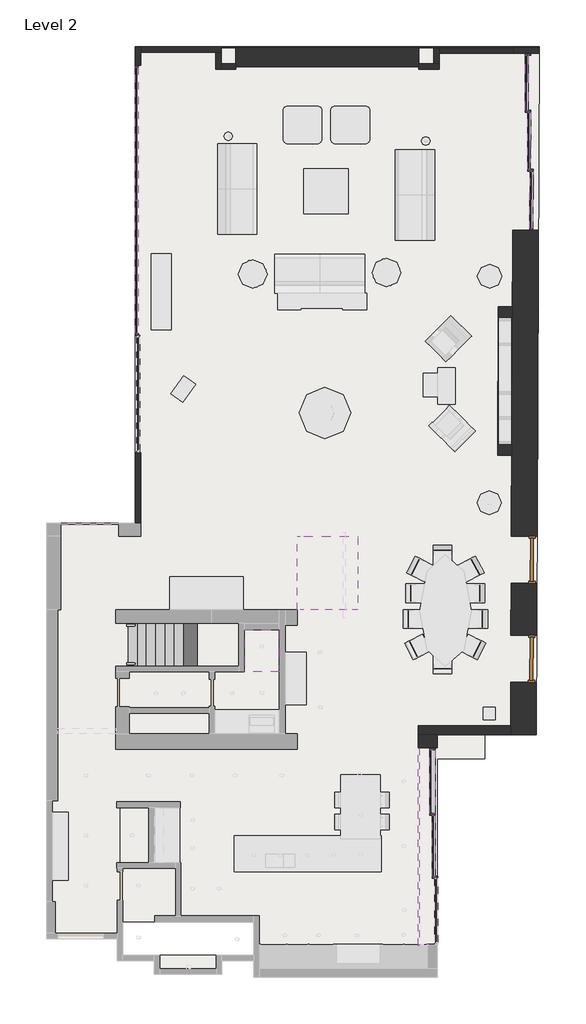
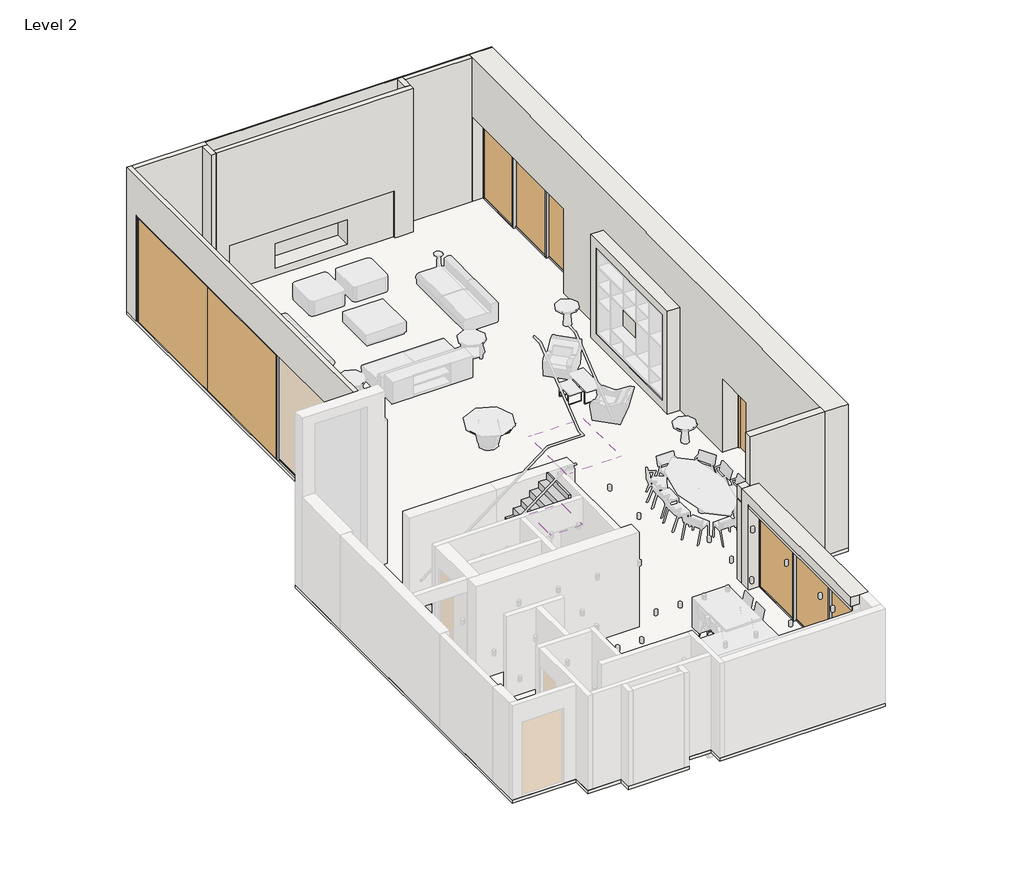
# One storey, part 2 of 3: 23 members, 13 walls, 10 doors, 3 slabs, 2 coverings, 1 stair flight.
"""IFC4 building model written with IfcOpenShell, lengths in millimetres."""

from ifc_helpers import new_model, si_unit, frame, origin, place, context, project, spatial, polyline, circle_curve, outline, extrude, faceted_brep, transform, mapped, element, save
from ifc_brep_helpers import plane_surface, revolved_surface, advanced_brep
from components import door_02_type_5_3aaab429, door_curtain_02_door_curtain_02_88b0817b, door_curtain_02_door_curtain_02_e1191033, door_curtain_02_door_curtain_02_69103538, door_curtain_02_door_curtain_02_17623e84, door_curtain_02_door_curtain_02_5de22d37, door_curtain_02_door_curtain_02_c00c4c88, rectangular_mullion_50_x_150mm_af865c33, rectangular_mullion_50_x_150mm_c631fdb4, rectangular_mullion_50_x_150mm_22fa7329, rectangular_mullion_50_x_80mm_b02faac2, rectangular_mullion_50_x_80mm_7a5850f5, rectangular_mullion_50_x_80mm_a170ba5c, rectangular_mullion_50_x_80mm_e6c40bfc, rectangular_mullion_50_x_80mm_b125b9fd, rectangular_mullion_50_x_80mm_d9664e05, rectangular_mullion_50_x_80mm_e20e2da3, rectangular_mullion_50_x_80mm_78f80b50

model = new_model("IFC4")

# Units and contexts
model_context = context("Model", 3, world=origin())
ifc_project = project(units=[si_unit("LENGTHUNIT", "METRE", prefix="MILLI")], contexts=[model_context])

# Site, building, storey
site = spatial("IfcSite", under=ifc_project)
building = spatial("IfcBuilding", under=site)
storey = spatial("IfcBuildingStorey", under=building, Name="Level 2", Elevation=3400.0)

# Coverings
placement = place(None, origin())
element("IfcCovering", 1, ObjectType="Ceiling", at=placement, inside=storey, context=model_context, shape_type="AdvancedBrep", body=[
    advanced_brep(
    [(-1542.6989418, 6908.2374199, 5587.4058339), (-1542.6989418, 7058.2374199, 5587.4058339), (-1542.6989418, 8048.2374199, 5587.4058339), (-2497.6989418, 8048.2374199, 5587.4058339), (-2497.6989418, 7058.2374199, 5587.4058339), (-2497.6989418, 6908.2374199, 5587.4058339), (-2070.5689108, 7586.6721928, 5587.4058339), (-1970.5689108, 7586.6721928, 5587.4058339), (-1542.6989418, 6908.2374199, 5537.4058339), (-2497.6989418, 6908.2374199, 5537.4058339), (-2497.6989418, 7058.2374199, 5537.4058339), (-2497.6989418, 8048.2374199, 5537.4058339), (-1542.6989418, 8048.2374199, 5537.4058339), (-2070.5689108, 7586.6721928, 5537.4058339), (-1970.5689108, 7586.6721928, 5537.4058339)],
    [
        (0, 1),
        (1, 2),
        (2, 3),
        (3, 4),
        (4, 5),
        (5, 0),
        (6, 7, circle_curve(frame((-2020.5689108, 7586.6721928, 5587.4058339), z_axis=(0.0, 0.0, -1.0), x_axis=(1.0, 0.0, 0.0)), 50.0)),
        (7, 6, circle_curve(frame((-2020.5689108, 7586.6721928, 5587.4058339), z_axis=(0.0, 0.0, -1.0), x_axis=(1.0, 0.0, 0.0)), 50.0)),
        (8, 9),
        (9, 10),
        (10, 11),
        (11, 12),
        (12, 8),
        (13, 14, circle_curve(frame((-2020.5689108, 7586.6721928, 5537.4058339), z_axis=(0.0, 0.0, 1.0), x_axis=(1.0, 0.0, 0.0)), 50.0)),
        (14, 13, circle_curve(frame((-2020.5689108, 7586.6721928, 5537.4058339), z_axis=(0.0, 0.0, 1.0), x_axis=(1.0, 0.0, 0.0)), 50.0)),
        (0, 8),
        (12, 2),
        (11, 3),
        (9, 5),
        (13, 6),
        (7, 14),
    ],
    [
        plane_surface(frame((-1542.6989418, 6908.2374199, 5587.4058339), z_axis=(0.0, 0.0, 1.0), x_axis=(0.0, 1.0, 0.0))),
        plane_surface(frame((-1542.6989418, 6908.2374199, 5537.4058339), z_axis=(0.0, 0.0, -1.0), x_axis=(0.0, -1.0, 0.0))),
        plane_surface(frame((-1542.6989418, 6908.2374199, 5587.4058339), z_axis=(1.0, 0.0, 0.0), x_axis=(0.0, 0.0, -1.0))),
        plane_surface(frame((-1542.6989418, 8048.2374199, 5587.4058339), z_axis=(0.0, 1.0, 0.0), x_axis=(0.0, 0.0, -1.0))),
        plane_surface(frame((-2497.6989418, 8048.2374199, 5587.4058339), z_axis=(-1.0, 0.0, 0.0), x_axis=(0.0, 0.0, -1.0))),
        plane_surface(frame((-2497.6989418, 6908.2374199, 5587.4058339), z_axis=(0.0, -1.0, 0.0), x_axis=(0.0, 0.0, -1.0))),
        revolved_surface(polyline([(-1970.5689108, 7586.6721928, 5587.4058339), (-1970.5689108, 7586.6721928, 5537.4058339)]), (-2020.5689108, 7586.6721928, 5537.4058339), (0.0, 0.0, 1.0)),
    ],
    [
        (0, [[1, 2, 3, 4, 5, 6], [7, 8]]),
        (1, [[9, 10, 11, 12, 13], [14, 15]]),
        (2, [[-2, -1, 16, -13, 17]]),
        (3, [[-3, -17, -12, 18]]),
        (4, [[-5, -4, -18, -11, -10, 19]]),
        (5, [[-6, -19, -9, -16]]),
        (6, [[-14, 20, -8, 21]]),
        (6, [[-15, -21, -7, -20]]),
    ],
),
])
element("IfcCovering", 2, ObjectType="Ceiling", at=placement, inside=storey, context=model_context, shape_type="Brep", body=[
    faceted_brep([(586.4168364, 8588.2374199, 6014.7543037), (586.4168364, 10551.9409292, 7360.3372287), (586.4168364, 10588.8264883, 7385.6122146), (-877.6989418, 10588.8264883, 7385.6122146), (-877.6989418, 10573.3393395, 7375.0), (-1057.6989418, 10573.3393395, 7375.0), (-1057.6989418, 8588.2374199, 6014.7543037), (-877.6989418, 8588.2374199, 6014.7543037), (286.4168364, 8588.2374199, 6014.7543037), (586.4168364, 10588.8264883, 7325.0), (586.4168364, 8588.2374199, 5954.1420891), (-1057.6989418, 8588.2374199, 5954.1420891), (-1057.6989418, 10588.8264883, 7325.0), (586.4168364, 8588.2374199, 6000.0), (-1057.6989418, 10588.8264883, 7375.0), (-877.6989418, 10588.8264883, 7375.0)], [[[0, 1, 2, 3, 4, 5, 6, 7, 8]], [[9, 10, 11, 12]], [[2, 1, 0, 13, 10, 9]], [[9, 12, 14, 15, 3, 2]], [[11, 10, 13, 0, 8, 7, 6]], [[15, 4, 3]], [[4, 15, 14, 5]], [[12, 11, 6, 5, 14]]]),
])

# Doors
door_02_type_5_shape = door_02_type_5_3aaab429(model_context)
element("IfcDoor", 3, ObjectType="Door_02 : Type 5", at=placement, inside=storey, context=model_context, shape_type="MappedRepresentation", body=[
    mapped(door_02_type_5_shape, transform((5123.3886777, 9953.1228293, 3400.0), x_axis=(-0.004356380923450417, -0.9999905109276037, 0.0), y_axis=(0.9999905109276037, -0.004356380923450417, 0.0), z_axis=(0.0, 0.0, 1.0))),
])
element("IfcDoor", 4, ObjectType="Door_02 : Type 5", at=placement, inside=storey, context=model_context, shape_type="MappedRepresentation", body=[
    mapped(door_02_type_5_shape, transform((5111.6482311, 7258.1484023, 3400.0), x_axis=(-0.004356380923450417, -0.9999905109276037, 0.0), y_axis=(0.9999905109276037, -0.004356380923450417, 0.0), z_axis=(0.0, 0.0, 1.0))),
])
door_curtain_02_door_curtain_02_shape = door_curtain_02_door_curtain_02_88b0817b(model_context)
element("IfcDoor", 5, ObjectType="Door_Curtain_02 : Door_Curtain_02", at=placement, inside=storey, context=model_context, shape_type="MappedRepresentation", body=[
    mapped(door_curtain_02_door_curtain_02_shape, transform((2578.0901674, 3913.2967998, 3450.0), x_axis=(0.0, -1.0, 0.0), y_axis=(1.0, 0.0, 0.0), z_axis=(0.0, 0.0, 1.0))),
])
door_curtain_02_door_curtain_02_2_shape = door_curtain_02_door_curtain_02_e1191033(model_context)
element("IfcDoor", 6, ObjectType="Door_Curtain_02 : Door_Curtain_02", at=placement, inside=storey, context=model_context, shape_type="MappedRepresentation", body=[
    mapped(door_curtain_02_door_curtain_02_2_shape, transform((2648.0901674, 2163.2967998, 3450.0), x_axis=(0.0, -1.0, 0.0), y_axis=(1.0, 0.0, 0.0), z_axis=(0.0, 0.0, 1.0))),
])
door_curtain_02_door_curtain_02_3_shape = door_curtain_02_door_curtain_02_69103538(model_context)
element("IfcDoor", 7, ObjectType="Door_Curtain_02 : Door_Curtain_02", at=placement, inside=storey, context=model_context, shape_type="MappedRepresentation", body=[
    mapped(door_curtain_02_door_curtain_02_3_shape, transform((2718.0901674, 403.2967998, 3450.0), x_axis=(0.0, -1.0, 0.0), y_axis=(1.0, 0.0, 0.0), z_axis=(0.0, 0.0, 1.0))),
])
door_curtain_02_door_curtain_02_4_shape = door_curtain_02_door_curtain_02_17623e84(model_context)
element("IfcDoor", 8, ObjectType="Door_Curtain_02 : Door_Curtain_02", at=placement, inside=storey, context=model_context, shape_type="MappedRepresentation", body=[
    mapped(door_curtain_02_door_curtain_02_4_shape, transform((5243.0652869, 21356.3197035, 3450.0), x_axis=(-0.004356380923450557, -0.9999905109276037, 0.0), y_axis=(0.9999905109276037, -0.004356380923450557, 0.0), z_axis=(0.0, 0.0, 1.0))),
])
element("IfcDoor", 9, ObjectType="Door_Curtain_02 : Door_Curtain_02", at=placement, inside=storey, context=model_context, shape_type="MappedRepresentation", body=[
    mapped(door_curtain_02_door_curtain_02_4_shape, transform((5306.0727663, 19751.0609777, 3450.0), x_axis=(-0.004356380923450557, -0.9999905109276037, 0.0), y_axis=(0.9999905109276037, -0.004356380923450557, 0.0), z_axis=(0.0, 0.0, 1.0))),
])
door_curtain_02_door_curtain_02_5_shape = door_curtain_02_door_curtain_02_5de22d37(model_context)
element("IfcDoor", 10, ObjectType="Door_Curtain_02 : Door_Curtain_02", at=placement, inside=storey, context=model_context, shape_type="MappedRepresentation", body=[
    mapped(door_curtain_02_door_curtain_02_5_shape, transform((5179.9490299, 22936.3344592, 3450.0), x_axis=(-0.004356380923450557, -0.9999905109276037, 0.0), y_axis=(0.9999905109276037, -0.004356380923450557, 0.0), z_axis=(0.0, 0.0, 1.0))),
])
door_curtain_02_door_curtain_02_6_shape = door_curtain_02_door_curtain_02_c00c4c88(model_context)
element("IfcDoor", 11, ObjectType="Door_Curtain_02 : Door_Curtain_02", at=placement, inside=storey, context=model_context, shape_type="MappedRepresentation", body=[
    mapped(door_curtain_02_door_curtain_02_6_shape, transform((-5434.2035042, 21548.8264883, 3400.0), x_axis=(0.0, -1.0, 0.0), y_axis=(1.0, 0.0, 0.0), z_axis=(0.0, 0.0, 1.0))),
])
element("IfcDoor", 12, ObjectType="Door_Curtain_02 : Door_Curtain_02", at=placement, inside=storey, context=model_context, shape_type="MappedRepresentation", body=[
    mapped(door_curtain_02_door_curtain_02_6_shape, transform((-5434.2035042, 17928.8264883, 3400.0), x_axis=(0.0, -1.0, 0.0), y_axis=(1.0, 0.0, 0.0), z_axis=(0.0, 0.0, 1.0))),
])

# Members
rectangular_mullion_50_x_150mm_shape = rectangular_mullion_50_x_150mm_af865c33(model_context)
element("IfcMember", 13, ObjectType="Rectangular Mullion : 50 x 150mm", at=placement, inside=storey, context=model_context, shape_type="MappedRepresentation", body=[
    mapped(rectangular_mullion_50_x_150mm_shape, transform((2578.0901674, 2998.2967998, 3400.0), x_axis=(0.0, -1.0, 0.0), y_axis=(-1.0, 0.0, 0.0), z_axis=(0.0, 0.0, -1.0))),
])
element("IfcMember", 14, ObjectType="Rectangular Mullion : 50 x 150mm", at=placement, inside=storey, context=model_context, shape_type="MappedRepresentation", body=[
    mapped(rectangular_mullion_50_x_150mm_shape, transform((2648.0901674, 1278.2967998, 3400.0), x_axis=(0.0, -1.0, 0.0), y_axis=(-1.0, 0.0, 0.0), z_axis=(0.0, 0.0, -1.0))),
])
element("IfcMember", 15, ObjectType="Rectangular Mullion : 50 x 150mm", at=placement, inside=storey, context=model_context, shape_type="MappedRepresentation", body=[
    mapped(rectangular_mullion_50_x_150mm_shape, transform((2578.0901674, 4828.2967998, 6115.0), x_axis=(0.0, 1.0, 0.0), y_axis=(-1.0, 0.0, 0.0), z_axis=(0.0, 0.0, 1.0))),
])
rectangular_mullion_50_x_150mm_2_shape = rectangular_mullion_50_x_150mm_c631fdb4(model_context)
element("IfcMember", 16, ObjectType="Rectangular Mullion : 50 x 150mm", at=placement, inside=storey, context=model_context, shape_type="MappedRepresentation", body=[
    mapped(rectangular_mullion_50_x_150mm_2_shape, transform((5176.4530357, 22133.84243, 3400.0), x_axis=(-0.004356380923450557, -0.9999905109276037, 0.0), y_axis=(-0.9999905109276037, 0.004356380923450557, 0.0), z_axis=(0.0, 0.0, -1.0))),
])
element("IfcMember", 17, ObjectType="Rectangular Mullion : 50 x 150mm", at=placement, inside=storey, context=model_context, shape_type="MappedRepresentation", body=[
    mapped(rectangular_mullion_50_x_150mm_2_shape, transform((5239.4603832, 20528.8279116, 3400.0), x_axis=(-0.004356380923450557, -0.9999905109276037, 0.0), y_axis=(-0.9999905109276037, 0.004356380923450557, 0.0), z_axis=(0.0, 0.0, -1.0))),
])
rectangular_mullion_50_x_150mm_3_shape = rectangular_mullion_50_x_150mm_22fa7329(model_context)
element("IfcMember", 18, ObjectType="Rectangular Mullion : 50 x 150mm", at=placement, inside=storey, context=model_context, shape_type="MappedRepresentation", body=[
    mapped(rectangular_mullion_50_x_150mm_3_shape, transform((2578.0901674, 3048.2967998, 6115.0), x_axis=(0.0, 0.0, 1.0), y_axis=(-1.0, 0.0, 0.0), z_axis=(0.0, -1.0, 0.0))),
])
element("IfcMember", 19, ObjectType="Rectangular Mullion : 50 x 150mm", at=placement, inside=storey, context=model_context, shape_type="MappedRepresentation", body=[
    mapped(rectangular_mullion_50_x_150mm_3_shape, transform((2578.0901674, 4778.2967998, 3400.0), x_axis=(0.0, 0.0, -1.0), y_axis=(-1.0, 0.0, 0.0), z_axis=(0.0, 1.0, 0.0))),
])
element("IfcMember", 20, ObjectType="Rectangular Mullion : 50 x 150mm", at=placement, inside=storey, context=model_context, shape_type="MappedRepresentation", body=[
    mapped(rectangular_mullion_50_x_150mm_2_shape, transform((5183.445024, 23738.8264883, 6100.8896883), x_axis=(0.004356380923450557, 0.9999905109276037, 0.0), y_axis=(-0.9999905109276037, 0.004356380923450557, 0.0), z_axis=(0.0, 0.0, 1.0))),
])
rectangular_mullion_50_x_80mm_shape = rectangular_mullion_50_x_80mm_b02faac2(model_context)
element("IfcMember", 21, ObjectType="Rectangular Mullion : 50 x 80mm", at=placement, inside=storey, context=model_context, shape_type="MappedRepresentation", body=[
    mapped(rectangular_mullion_50_x_80mm_shape, transform((2648.0901674, 2998.2967998, 3400.0), x_axis=(0.0, 0.0, -1.0), y_axis=(-1.0, 0.0, 0.0), z_axis=(0.0, 1.0, 0.0))),
])
element("IfcMember", 22, ObjectType="Rectangular Mullion : 50 x 80mm", at=placement, inside=storey, context=model_context, shape_type="MappedRepresentation", body=[
    mapped(rectangular_mullion_50_x_80mm_shape, transform((2648.0901674, 1328.2967998, 6115.0), x_axis=(0.0, 0.0, 1.0), y_axis=(-1.0, 0.0, 0.0), z_axis=(0.0, -1.0, 0.0))),
])
rectangular_mullion_50_x_80mm_2_shape = rectangular_mullion_50_x_80mm_7a5850f5(model_context)
element("IfcMember", 23, ObjectType="Rectangular Mullion : 50 x 80mm", at=placement, inside=storey, context=model_context, shape_type="MappedRepresentation", body=[
    mapped(rectangular_mullion_50_x_80mm_2_shape, transform((2718.0901674, 1278.2967998, 3400.0), x_axis=(0.0, 0.0, -1.0), y_axis=(-1.0, 0.0, 0.0), z_axis=(0.0, 1.0, 0.0))),
])
rectangular_mullion_50_x_80mm_3_shape = rectangular_mullion_50_x_80mm_a170ba5c(model_context)
element("IfcMember", 24, ObjectType="Rectangular Mullion : 50 x 80mm", at=placement, inside=storey, context=model_context, shape_type="MappedRepresentation", body=[
    mapped(rectangular_mullion_50_x_80mm_3_shape, transform((5183.227205, 23688.8269628, 3400.0), x_axis=(0.0, 0.0, -1.0), y_axis=(-0.9999905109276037, 0.0043563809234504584, 0.0), z_axis=(0.0043563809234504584, 0.9999905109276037, 0.0))),
])
rectangular_mullion_50_x_80mm_4_shape = rectangular_mullion_50_x_80mm_e6c40bfc(model_context)
element("IfcMember", 25, ObjectType="Rectangular Mullion : 50 x 80mm", at=placement, inside=storey, context=model_context, shape_type="MappedRepresentation", body=[
    mapped(rectangular_mullion_50_x_80mm_4_shape, transform((5246.4523715, 22133.8119699, 3400.0), x_axis=(0.0, 0.0, -1.0), y_axis=(-0.9999905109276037, 0.0043563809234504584, 0.0), z_axis=(0.0043563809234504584, 0.9999905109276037, 0.0))),
])
element("IfcMember", 26, ObjectType="Rectangular Mullion : 50 x 80mm", at=placement, inside=storey, context=model_context, shape_type="MappedRepresentation", body=[
    mapped(rectangular_mullion_50_x_80mm_4_shape, transform((5309.4598509, 20528.5532441, 3400.0), x_axis=(0.0, 0.0, -1.0), y_axis=(-0.9999905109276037, 0.0043563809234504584, 0.0), z_axis=(0.0043563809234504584, 0.9999905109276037, 0.0))),
])
element("IfcMember", 27, ObjectType="Rectangular Mullion : 50 x 80mm", at=placement, inside=storey, context=model_context, shape_type="MappedRepresentation", body=[
    mapped(rectangular_mullion_50_x_80mm_3_shape, transform((5176.6708548, 22183.8419555, 6100.8896883), x_axis=(0.0, 0.0, 1.0), y_axis=(-0.9999905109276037, 0.0043563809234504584, 0.0), z_axis=(-0.0043563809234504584, -0.9999905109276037, 0.0))),
])
element("IfcMember", 28, ObjectType="Rectangular Mullion : 50 x 80mm", at=placement, inside=storey, context=model_context, shape_type="MappedRepresentation", body=[
    mapped(rectangular_mullion_50_x_80mm_4_shape, transform((5239.6782023, 20578.8274371, 6100.8896883), x_axis=(0.0, 0.0, 1.0), y_axis=(-0.9999905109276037, 0.0043563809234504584, 0.0), z_axis=(-0.0043563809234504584, -0.9999905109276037, 0.0))),
])
element("IfcMember", 29, ObjectType="Rectangular Mullion : 50 x 80mm", at=placement, inside=storey, context=model_context, shape_type="MappedRepresentation", body=[
    mapped(rectangular_mullion_50_x_80mm_4_shape, transform((5302.6856817, 18973.5687113, 6100.8896883), x_axis=(0.0, 0.0, 1.0), y_axis=(-0.9999905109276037, 0.0043563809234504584, 0.0), z_axis=(-0.0043563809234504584, -0.9999905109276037, 0.0))),
])
rectangular_mullion_50_x_80mm_5_shape = rectangular_mullion_50_x_80mm_b125b9fd(model_context)
element("IfcMember", 30, ObjectType="Rectangular Mullion : 50 x 80mm", at=placement, inside=storey, context=model_context, shape_type="MappedRepresentation", body=[
    mapped(rectangular_mullion_50_x_80mm_5_shape, transform((5302.4678626, 18923.5691858, 3400.0), x_axis=(-0.004356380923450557, -0.9999905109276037, 0.0), y_axis=(-0.9999905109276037, 0.004356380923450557, 0.0), z_axis=(0.0, 0.0, -1.0))),
])
rectangular_mullion_50_x_80mm_6_shape = rectangular_mullion_50_x_80mm_d9664e05(model_context)
element("IfcMember", 31, ObjectType="Rectangular Mullion : 50 x 80mm", at=placement, inside=storey, context=model_context, shape_type="MappedRepresentation", body=[
    mapped(rectangular_mullion_50_x_80mm_6_shape, transform((-5434.2035042, 23408.8264883, 6771.3320339), x_axis=(0.0, 1.0, 0.0), y_axis=(-1.0, 0.0, 0.0), z_axis=(0.0, 0.0, 1.0))),
])
element("IfcMember", 32, ObjectType="Rectangular Mullion : 50 x 80mm", at=placement, inside=storey, context=model_context, shape_type="MappedRepresentation", body=[
    mapped(rectangular_mullion_50_x_80mm_6_shape, transform((-5434.2035042, 16068.8264883, 3400.0), x_axis=(0.0, -1.0, 0.0), y_axis=(-1.0, 0.0, 0.0), z_axis=(0.0, 0.0, -1.0))),
])
rectangular_mullion_50_x_80mm_7_shape = rectangular_mullion_50_x_80mm_e20e2da3(model_context)
element("IfcMember", 33, ObjectType="Rectangular Mullion : 50 x 80mm", at=placement, inside=storey, context=model_context, shape_type="MappedRepresentation", body=[
    mapped(rectangular_mullion_50_x_80mm_7_shape, transform((-5394.2035042, 16018.8264883, 3400.0), x_axis=(0.0, 0.0, -1.0), y_axis=(-1.0, 0.0, 0.0), z_axis=(0.0, 1.0, 0.0))),
])
rectangular_mullion_50_x_80mm_8_shape = rectangular_mullion_50_x_80mm_78f80b50(model_context)
element("IfcMember", 34, ObjectType="Rectangular Mullion : 50 x 80mm", at=placement, inside=storey, context=model_context, shape_type="MappedRepresentation", body=[
    mapped(rectangular_mullion_50_x_80mm_8_shape, transform((-5434.2035042, 16118.8264883, 6771.3320339), x_axis=(0.0, 0.0, 1.0), y_axis=(-1.0, 0.0, 0.0), z_axis=(0.0, -1.0, 0.0))),
])
element("IfcMember", 35, ObjectType="Rectangular Mullion : 50 x 80mm", at=placement, inside=storey, context=model_context, shape_type="MappedRepresentation", body=[
    mapped(rectangular_mullion_50_x_80mm_8_shape, transform((-5434.2035042, 19738.8264883, 6771.3320339), x_axis=(0.0, 0.0, 1.0), y_axis=(-1.0, 0.0, 0.0), z_axis=(0.0, -1.0, 0.0))),
])

# Slabs
element("IfcSlab", 36, ObjectType="Floor_100", at=placement, inside=storey, context=model_context, shape_type="SweptSolid", body=[
    extrude(outline(polyline([(-5469.2035042, 23923.8264883), (5534.2542834, 23923.8264883), (5452.621967, 5185.4417732), (4050.0966269, 5185.4417732), (4050.0966269, 4538.2967998), (2763.0901674, 4538.2967998), (2763.0901674, -1421.1735117), (-2233.0019919, -1421.1735117), (-2233.0019919, -972.9532002), (-3108.0019919, -972.9532002), (-3108.0019919, -1339.4801931), (-4945.5019919, -1339.4801931), (-4945.5019919, -972.9532002), (-5953.0019919, -972.9532002), (-5953.0019919, -369.4801931), (-7880.5019919, -369.4801931), (-7880.5019919, 10948.8264883), (-5469.2035042, 10948.8264883), (-5469.2035042, 23923.8264883)]), holes=[polyline([(-5803.0019919, 85.8787458), (-5803.0019919, -822.9532002), (-4795.5019919, -822.9532002), (-4795.5019919, -1189.4801931), (-3258.0019919, -1189.4801931), (-3258.0019919, -822.9532002), (-2093.0019919, -822.9532002), (-2093.0019919, 85.8787458), (-5803.0019919, 85.8787458)])]), frame((0.0, 0.0, 3300.0), z_axis=(0.0, 0.0, 1.0), x_axis=(1.0, 0.0, 0.0)), (0.0, 0.0, 1.0), 100.0),
])
element("IfcSlab", 37, ObjectType="Floor_210", at=placement, inside=storey, context=model_context, shape_type="SweptSolid", body=[
    extrude(outline(polyline([(-5098.0019919, 3203.0198069), (-5098.0019919, 1695.5198069), (-5873.0019919, 1695.5198069), (-5873.0019919, 3203.0198069), (-5098.0019919, 3203.0198069)])), frame((0.0, 0.0, 3590.0), z_axis=(0.0, 0.0, 1.0), x_axis=(1.0, 0.0, 0.0)), (0.0, 0.0, 1.0), 210.0),
])
element("IfcSlab", 38, ObjectType="Floor_50", at=placement, inside=storey, context=model_context, shape_type="SweptSolid", body=[
    extrude(outline(polyline([(-4795.5019919, -822.9532002), (-3258.0019919, -822.9532002), (-3258.0019919, -1189.4801931), (-4795.5019919, -1189.4801931), (-4795.5019919, -822.9532002)])), frame((0.0, 0.0, 3300.0), z_axis=(0.0, 0.0, 1.0), x_axis=(1.0, 0.0, 0.0)), (0.0, 0.0, 1.0), 50.0),
])

# Stair flight
element("IfcStairFlight", 39, ObjectType="150mm Depth 2", at=placement, inside=storey, context=model_context, shape_type="Brep", body=[
    faceted_brep([(-5402.6989418, 8228.2374199, 3594.375), (-5662.6989418, 8228.2374199, 3594.375), (-5662.6989418, 7058.2374199, 3594.375), (-5402.6989418, 7058.2374199, 3594.375), (-5402.6989418, 8228.2374199, 3400.0), (-5662.6989418, 8228.2374199, 3400.0), (-5662.6989418, 7058.2374199, 3400.0), (-5402.6989418, 7058.2374199, 3400.0), (-5162.6989418, 8228.2374199, 3788.75), (-5402.6989418, 8228.2374199, 3788.75), (-5402.6989418, 7058.2374199, 3788.75), (-5162.6989418, 7058.2374199, 3788.75), (-5162.6989418, 8228.2374199, 3532.6970497), (-5334.9633219, 8228.2374199, 3400.0), (-5334.9633219, 7058.2374199, 3400.0), (-5162.6989418, 7058.2374199, 3532.6970497), (-4902.6989418, 8228.2374199, 3983.125), (-5162.6989418, 8228.2374199, 3983.125), (-5162.6989418, 7058.2374199, 3983.125), (-4902.6989418, 7058.2374199, 3983.125), (-4902.6989418, 8228.2374199, 3732.9777631), (-4902.6989418, 7058.2374199, 3732.9777631), (-4642.6989418, 8228.2374199, 4177.5), (-4902.6989418, 8228.2374199, 4177.5), (-4902.6989418, 7058.2374199, 4177.5), (-4642.6989418, 7058.2374199, 4177.5), (-4642.6989418, 8228.2374199, 3933.2584764), (-4642.6989418, 7058.2374199, 3933.2584764), (-4402.6989418, 8228.2374199, 4371.875), (-4642.6989418, 8228.2374199, 4371.875), (-4642.6989418, 7058.2374199, 4371.875), (-4402.6989418, 7058.2374199, 4371.875), (-4402.6989418, 8228.2374199, 4118.132981), (-4402.6989418, 7058.2374199, 4118.132981), (-4142.6989418, 8228.2374199, 4566.25), (-4402.6989418, 8228.2374199, 4566.25), (-4402.6989418, 7058.2374199, 4566.25), (-4142.6989418, 7058.2374199, 4566.25), (-4142.6989418, 8228.2374199, 4318.4136944), (-4142.6989418, 7058.2374199, 4318.4136944), (-3902.6989418, 8228.2374199, 4760.625), (-4142.6989418, 8228.2374199, 4760.625), (-4142.6989418, 7058.2374199, 4760.625), (-3902.6989418, 7058.2374199, 4760.625), (-3902.6989418, 8228.2374199, 4503.288199), (-3902.6989418, 7058.2374199, 4503.288199), (-3642.6989418, 8228.2374199, 4955.0), (-3902.6989418, 8228.2374199, 4955.0), (-3902.6989418, 7058.2374199, 4955.0), (-3642.6989418, 7058.2374199, 4955.0), (-3642.6989418, 8228.2374199, 4703.5689123), (-3642.6989418, 7058.2374199, 4703.5689123), (-3382.6989418, 8228.2374199, 5149.375), (-3642.6989418, 8228.2374199, 5149.375), (-3642.6989418, 7058.2374199, 5149.375), (-3382.6989418, 7058.2374199, 5149.375), (-3382.6989418, 8228.2374199, 4903.8496257), (-3382.6989418, 7058.2374199, 4903.8496257), (-3122.6989418, 8228.2374199, 5343.75), (-3382.6989418, 8228.2374199, 5343.75), (-3382.6989418, 7058.2374199, 5343.75), (-3122.6989418, 7058.2374199, 5343.75), (-3122.6989418, 8228.2374199, 5104.130339), (-3122.6989418, 7058.2374199, 5104.130339), (-2882.6989418, 8228.2374199, 5538.125), (-3122.6989418, 8228.2374199, 5538.125), (-3122.6989418, 7058.2374199, 5538.125), (-2882.6989418, 7058.2374199, 5538.125), (-2882.6989418, 8228.2374199, 5289.0048437), (-2882.6989418, 7058.2374199, 5289.0048437), (-2647.6989418, 8228.2374199, 5732.5), (-2882.6989418, 8228.2374199, 5732.5), (-2882.6989418, 7058.2374199, 5732.5), (-2647.6989418, 7058.2374199, 5732.5), (-2647.6989418, 8228.2374199, 5470.0277961), (-2647.6989418, 7058.2374199, 5470.0277961), (-2387.6989418, 8228.2374199, 5926.875), (-2647.6989418, 8228.2374199, 5926.875), (-2647.6989418, 7058.2374199, 5926.875), (-2387.6989418, 7058.2374199, 5926.875), (-2387.6989418, 8228.2374199, 5670.3085094), (-2387.6989418, 7058.2374199, 5670.3085094), (-2127.6989418, 8228.2374199, 6121.25), (-2387.6989418, 8228.2374199, 6121.25), (-2387.6989418, 7058.2374199, 6121.25), (-2127.6989418, 7058.2374199, 6121.25), (-2127.6989418, 8228.2374199, 5870.5892228), (-2127.6989418, 7058.2374199, 5870.5892228), (-1877.6989418, 8228.2374199, 6315.625), (-2127.6989418, 8228.2374199, 6315.625), (-2127.6989418, 7058.2374199, 6315.625), (-1877.6989418, 7058.2374199, 6315.625), (-1877.6989418, 8228.2374199, 6063.1668318), (-1877.6989418, 7058.2374199, 6063.1668318), (-1827.6989418, 8228.2374199, 6101.6823536), (-1827.6989418, 7058.2374199, 6101.6823536), (-1827.6989418, 8228.2374199, 6510.0), (-1877.6989418, 8228.2374199, 6510.0), (-1877.6989418, 7058.2374199, 6510.0), (-1827.6989418, 7058.2374199, 6510.0)], [[[0, 1, 2, 3]], [[1, 0, 4, 5]], [[2, 1, 5, 6]], [[3, 2, 6, 7]], [[8, 9, 10, 11]], [[4, 0, 9, 8, 12, 13]], [[0, 3, 10, 9]], [[3, 7, 14, 15, 11, 10]], [[16, 17, 18, 19]], [[17, 16, 20, 12, 8]], [[8, 11, 18, 17]], [[19, 18, 11, 15, 21]], [[22, 23, 24, 25]], [[23, 22, 26, 20, 16]], [[16, 19, 24, 23]], [[25, 24, 19, 21, 27]], [[28, 29, 30, 31]], [[29, 28, 32, 26, 22]], [[22, 25, 30, 29]], [[31, 30, 25, 27, 33]], [[34, 35, 36, 37]], [[35, 34, 38, 32, 28]], [[28, 31, 36, 35]], [[37, 36, 31, 33, 39]], [[40, 41, 42, 43]], [[41, 40, 44, 38, 34]], [[34, 37, 42, 41]], [[43, 42, 37, 39, 45]], [[46, 47, 48, 49]], [[47, 46, 50, 44, 40]], [[40, 43, 48, 47]], [[49, 48, 43, 45, 51]], [[52, 53, 54, 55]], [[53, 52, 56, 50, 46]], [[46, 49, 54, 53]], [[55, 54, 49, 51, 57]], [[58, 59, 60, 61]], [[59, 58, 62, 56, 52]], [[52, 55, 60, 59]], [[61, 60, 55, 57, 63]], [[64, 65, 66, 67]], [[65, 64, 68, 62, 58]], [[58, 61, 66, 65]], [[67, 66, 61, 63, 69]], [[70, 71, 72, 73]], [[71, 70, 74, 68, 64]], [[64, 67, 72, 71]], [[73, 72, 67, 69, 75]], [[76, 77, 78, 79]], [[77, 76, 80, 74, 70]], [[70, 73, 78, 77]], [[79, 78, 73, 75, 81]], [[82, 83, 84, 85]], [[83, 82, 86, 80, 76]], [[76, 79, 84, 83]], [[85, 84, 79, 81, 87]], [[88, 89, 90, 91]], [[89, 88, 92, 86, 82]], [[82, 85, 90, 89]], [[91, 90, 85, 87, 93]], [[5, 4, 13, 14, 7, 6]], [[14, 13, 12, 20, 26, 32, 38, 44, 50, 56, 62, 68, 74, 80, 86, 92, 94, 95, 93, 87, 81, 75, 69, 63, 57, 51, 45, 39, 33, 27, 21, 15]], [[96, 97, 98, 99]], [[97, 96, 94, 92, 88]], [[88, 91, 98, 97]], [[99, 98, 91, 93, 95]], [[96, 99, 95, 94]]]),
])

# Walls
element("IfcWall", 40, ObjectType="Generic - Ext 150mm", at=placement, inside=storey, context=model_context, shape_type="Brep", body=[
    faceted_brep([(-5319.2035042, 23923.8264883, 7980.0), (-5319.2035042, 23773.8264883, 7980.0), (-5319.2035042, 10948.8264883, 7980.0), (-5319.2035042, 10948.8264883, 3400.0), (-5319.2035042, 12868.8264883, 3400.0), (-5319.2035042, 12868.8264883, 6771.3320339), (-5319.2035042, 23408.8264883, 6771.3320339), (-5319.2035042, 23408.8264883, 3400.0), (-5319.2035042, 23773.8264883, 3400.0), (-5319.2035042, 23923.8264883, 3400.0), (-5469.2035042, 10948.8264883, 7980.0), (-5469.2035042, 23923.8264883, 7980.0), (-5469.2035042, 23923.8264883, 3400.0), (-5469.2035042, 23408.8264883, 3400.0), (-5469.2035042, 23408.8264883, 6771.3320339), (-5469.2035042, 12868.8264883, 6771.3320339), (-5469.2035042, 12868.8264883, 3400.0), (-5469.2035042, 10948.8264883, 3400.0), (-5394.2035042, 10948.8264883, 7980.0)], [[[0, 1, 2, 3, 4, 5, 6, 7, 8, 9]], [[10, 11, 12, 13, 14, 15, 16, 17]], [[3, 17, 16, 4]], [[12, 9, 8, 7, 13]], [[2, 1, 0, 11, 10, 18]], [[0, 9, 12, 11]], [[2, 18, 10, 17, 3]], [[6, 14, 13, 7]], [[14, 6, 5, 15]], [[15, 5, 4, 16]]]),
])
element("IfcWall", 41, ObjectType="Generic - Ext 150mm", at=placement, inside=storey, context=model_context, shape_type="Brep", body=[
    faceted_brep([(-5319.2035042, 23773.8264883, 3400.0), (-3274.2035042, 23773.8264883, 3400.0), (-3124.2035042, 23773.8264883, 3400.0), (-3124.2035042, 23773.8264883, 7980.0), (-3274.2035042, 23773.8264883, 7980.0), (-5319.2035042, 23773.8264883, 7980.0), (-5319.2035042, 23923.8264883, 3400.0), (-5319.2035042, 23923.8264883, 7980.0), (-3124.2035042, 23923.8264883, 7980.0), (-3124.2035042, 23923.8264883, 3400.0), (-3124.2035042, 23888.8264883, 3400.0), (-3124.2035042, 23888.8264883, 7980.0)], [[[0, 1, 2, 3, 4, 5]], [[6, 7, 8, 9]], [[2, 1, 0, 6, 9, 10]], [[5, 4, 3, 11, 8, 7]], [[0, 5, 7, 6]], [[3, 2, 10, 9, 8, 11]]]),
])
element("IfcWall", 42, ObjectType="Generic - Ext 150mm", at=placement, inside=storey, context=model_context, shape_type="Brep", body=[
    faceted_brep([(-3274.2035042, 23773.8264883, 3400.0), (-3274.2035042, 23308.8264883, 3400.0), (-3274.2035042, 23308.8264883, 7980.0), (-3274.2035042, 23773.8264883, 7980.0), (-3124.2035042, 23773.8264883, 3400.0), (-3124.2035042, 23773.8264883, 7980.0), (-3124.2035042, 23458.8264883, 7980.0), (-3124.2035042, 23308.8264883, 7980.0), (-3124.2035042, 23308.8264883, 3400.0), (-3124.2035042, 23458.8264883, 3400.0)], [[[0, 1, 2, 3]], [[4, 5, 6, 7, 8, 9]], [[1, 0, 4, 9, 8]], [[3, 2, 7, 6, 5]], [[0, 3, 5, 4]], [[2, 1, 8, 7]]]),
])
element("IfcWall", 43, ObjectType="Generic - Ext 150mm", at=placement, inside=storey, context=model_context, shape_type="Brep", body=[
    faceted_brep([(2815.7964958, 23308.8264883, 7980.0), (-3124.2035042, 23308.8264883, 7980.0), (-3124.2035042, 23308.8264883, 3400.0), (-2734.2035042, 23308.8264883, 3400.0), (-2734.2035042, 23308.8264883, 4905.1644482), (2255.7964958, 23308.8264883, 4905.1644482), (2255.7964958, 23308.8264883, 3400.0), (2815.7964958, 23308.8264883, 3400.0), (-3124.2035042, 23458.8264883, 7980.0), (2665.7964958, 23458.8264883, 7980.0), (2815.7964958, 23458.8264883, 7980.0), (2815.7964958, 23458.8264883, 3400.0), (2665.7964958, 23458.8264883, 3400.0), (2255.7964958, 23458.8264883, 3400.0), (2255.7964958, 23458.8264883, 4905.1644482), (-2734.2035042, 23458.8264883, 4905.1644482), (-2734.2035042, 23458.8264883, 3400.0), (-3124.2035042, 23458.8264883, 3400.0)], [[[0, 1, 2, 3, 4, 5, 6, 7]], [[8, 9, 10, 11, 12, 13, 14, 15, 16, 17]], [[2, 17, 16, 3]], [[11, 7, 6, 13, 12]], [[1, 0, 10, 9, 8]], [[2, 1, 8, 17]], [[0, 7, 11, 10]], [[15, 4, 3, 16]], [[4, 15, 14, 5]], [[5, 14, 13, 6]]]),
])
element("IfcWall", 44, ObjectType="Generic - Ext 150mm", at=placement, inside=storey, context=model_context, shape_type="Brep", body=[
    faceted_brep([(2815.7964958, 23458.8264883, 3400.0), (2815.7964958, 23738.8264883, 3400.0), (2815.7964958, 23888.8264883, 3400.0), (2815.7964958, 23888.8264883, 7980.0), (2815.7964958, 23738.8264883, 7980.0), (2815.7964958, 23458.8264883, 7980.0), (2665.7964958, 23458.8264883, 3400.0), (2665.7964958, 23458.8264883, 7980.0), (2665.7964958, 23888.8264883, 7980.0), (2665.7964958, 23888.8264883, 3400.0)], [[[0, 1, 2, 3, 4, 5]], [[6, 7, 8, 9]], [[2, 1, 0, 6, 9]], [[5, 4, 3, 8, 7]], [[0, 5, 7, 6]], [[3, 2, 9, 8]]]),
])
element("IfcWall", 45, ObjectType="Generic - Ext 150mm", at=placement, inside=storey, context=model_context, shape_type="Brep", body=[
    faceted_brep([(2815.7964958, 23738.8264883, 3400.0), (4833.4417028, 23738.8264883, 3400.0), (4833.4417028, 23738.8264883, 7980.0), (2815.7964958, 23738.8264883, 7980.0), (2815.7964958, 23888.8264883, 3400.0), (2815.7964958, 23888.8264883, 7980.0), (4834.0951662, 23888.8264883, 7980.0), (4834.0951662, 23888.8264883, 3400.0), (4833.4483452, 23740.3512217, 3400.0)], [[[0, 1, 2, 3]], [[4, 5, 6, 7]], [[1, 0, 4, 7, 8]], [[3, 2, 6, 5]], [[0, 3, 5, 4]], [[2, 1, 8, 7, 6]]]),
])
element("IfcWall", 46, ObjectType="Generic - Ext 240mm", at=placement, inside=storey, context=model_context, shape_type="Brep", body=[
    faceted_brep([(4753.660866, 5425.4417732, 3400.0), (2243.0901674, 5425.4417732, 3400.0), (2243.0901674, 5425.4417732, 5950.0), (2273.0901674, 5425.4417732, 5950.0), (2273.0901674, 5425.4417732, 6000.0), (2243.0901674, 5425.4417732, 6000.0), (2243.0901674, 5425.4417732, 6410.0), (2503.0901674, 5425.4417732, 6410.0), (2503.0901674, 5425.4417732, 7980.0), (4753.660866, 5425.4417732, 7980.0), (2243.0901674, 5185.4417732, 3400.0), (2763.0901674, 5185.4417732, 3400.0), (4752.6153246, 5185.4417732, 3400.0), (4752.6153246, 5185.4417732, 7980.0), (2503.0901674, 5185.4417732, 7980.0), (2503.0901674, 5185.4417732, 6510.0), (2503.0901674, 5185.4417732, 6410.0), (2243.0901674, 5185.4417732, 6410.0), (2243.0901674, 5185.4417732, 6000.0), (2273.0901674, 5185.4417732, 6000.0), (2273.0901674, 5185.4417732, 5950.0), (2243.0901674, 5185.4417732, 5950.0)], [[[0, 1, 2, 3, 4, 5, 6, 7, 8, 9]], [[10, 11, 12, 13, 14, 15, 16, 17, 18, 19, 20, 21]], [[1, 0, 12, 11, 10]], [[9, 8, 14, 13]], [[14, 8, 7, 16, 15]], [[16, 7, 6, 17]], [[1, 10, 21, 2]], [[17, 6, 5, 18]], [[0, 9, 13, 12]], [[4, 19, 18, 5]], [[20, 3, 2, 21]], [[19, 4, 3, 20]]]),
])
element("IfcWall", 47, ObjectType="Generic - Ext 35mm", at=placement, inside=storey, context=model_context, shape_type="SweptSolid", body=[
    extrude(outline(polyline([(5534.178046, 23888.8264883), (-3124.2035042, 23888.8264883), (-3124.2035042, 23923.8264883), (5534.178046, 23923.8264883), (5534.178046, 23888.8264883)])), frame((0.0, 0.0, 3400.0), z_axis=(0.0, 0.0, 1.0), x_axis=(1.0, 0.0, 0.0)), (0.0, 0.0, 1.0), 4580.0),
])
element("IfcWall", 48, ObjectType="Generic - Ext 510mm", at=placement, inside=storey, context=model_context, shape_type="Brep", body=[
    faceted_brep([(-2734.2035042, 23378.8264883, 3400.0), (2255.7964958, 23378.8264883, 3400.0), (2255.7964958, 23378.8264883, 4905.1644482), (-2734.2035042, 23378.8264883, 4905.1644482), (864.9050276, 23378.8264883, 4422.9865736), (864.9050276, 23378.8264883, 3642.9865736), (-1310.0949724, 23378.8264883, 3642.9865736), (-1310.0949724, 23378.8264883, 4422.9865736), (2255.7964958, 23888.8264883, 3400.0), (-2734.2035042, 23888.8264883, 3400.0), (-2734.2035042, 23888.8264883, 4905.1644482), (2255.7964958, 23888.8264883, 4905.1644482), (864.9050276, 23870.6562369, 4422.9865736), (-1310.0949724, 23870.6562369, 4422.9865736), (-1310.0949724, 23870.6562369, 3642.9865736), (864.9050276, 23870.6562369, 3642.9865736)], [[[0, 1, 2, 3], [4, 5, 6, 7]], [[8, 9, 10, 11]], [[1, 0, 9, 8]], [[2, 1, 8, 11]], [[3, 2, 11, 10]], [[0, 3, 10, 9]], [[12, 13, 14, 15]], [[12, 15, 5, 4]], [[15, 14, 6, 5]], [[14, 13, 7, 6]], [[13, 12, 4, 7]]]),
])
element("IfcWall", 49, ObjectType="Generic - Ext 520mm", at=placement, inside=storey, context=model_context, shape_type="Brep", body=[
    faceted_brep([(2243.0901674, -521.7032002, 6410.0), (2243.0901674, 4825.4417732, 6410.0), (2243.0901674, 5185.4417732, 6410.0), (2243.0901674, 5185.4417732, 3400.0), (2243.0901674, 4828.2967998, 3400.0), (2243.0901674, 4828.2967998, 6115.0), (2243.0901674, -521.7032002, 6115.0), (2763.0901674, 5185.4417732, 6410.0), (2763.0901674, -521.7032002, 6410.0), (2763.0901674, -521.7032002, 6115.0), (2763.0901674, 4828.2967998, 6115.0), (2763.0901674, 4828.2967998, 3400.0), (2763.0901674, 5185.4417732, 3400.0), (2503.0901674, -521.7032002, 6410.0), (2503.0901674, 5185.4417732, 6410.0)], [[[0, 1, 2, 3, 4, 5, 6]], [[7, 8, 9, 10, 11, 12]], [[4, 3, 12, 11]], [[8, 13, 0, 6, 9]], [[2, 1, 0, 13, 8, 7, 14]], [[10, 5, 4, 11]], [[5, 10, 9, 6]], [[2, 14, 7, 12, 3]]]),
])
element("IfcWall", 50, ObjectType="Generic - Ext 700mm", at=placement, inside=storey, context=model_context, shape_type="Brep", body=[
    faceted_brep([(5534.1018086, 23888.8264883, 7980.0), (5452.621967, 5185.4417732, 7980.0), (5452.621967, 5185.4417732, 3400.0), (5458.8568262, 6616.629742, 3400.0), (5458.8568262, 6616.629742, 5760.0), (5464.4329937, 7896.617596, 5760.0), (5464.4329937, 7896.617596, 3400.0), (5470.5972727, 9311.604169, 3400.0), (5470.5972727, 9311.604169, 5760.0), (5476.1734403, 10591.592023, 5760.0), (5476.1734403, 10591.592023, 3400.0), (5512.4670657, 18922.6543406, 3400.0), (5512.4670657, 18922.6543406, 6100.8896883), (5533.4417029, 23737.301755, 6100.8896883), (5533.4417029, 23737.301755, 3400.0), (5534.1018086, 23888.8264883, 3400.0), (4752.6153246, 5185.4417732, 7980.0), (4753.660866, 5425.4417732, 7980.0), (4833.4417028, 23738.8264883, 7980.0), (4834.0951662, 23888.8264883, 7980.0), (4834.0951662, 23888.8264883, 3400.0), (4833.4483452, 23740.3512217, 3400.0), (4833.4483452, 23740.3512217, 6100.8896883), (4812.473708, 18925.7038072, 6100.8896883), (4812.473708, 18925.7038072, 3400.0), (4776.1800827, 10594.6414896, 3400.0), (4776.1800827, 10594.6414896, 5760.0), (4770.6039151, 9314.6536356, 5760.0), (4770.6039151, 9314.6536356, 3400.0), (4764.4396361, 7899.6670626, 3400.0), (4764.4396361, 7899.6670626, 5760.0), (4758.8634685, 6619.6792087, 5760.0), (4758.8634685, 6619.6792087, 3400.0), (4753.660866, 5425.4417732, 3400.0), (4752.6153246, 5185.4417732, 3400.0)], [[[0, 1, 2, 3, 4, 5, 6, 7, 8, 9, 10, 11, 12, 13, 14, 15]], [[16, 17, 18, 19, 20, 21, 22, 23, 24, 25, 26, 27, 28, 29, 30, 31, 32, 33, 34]], [[2, 34, 33, 32, 3]], [[20, 15, 14, 21]], [[24, 11, 10, 25]], [[28, 7, 6, 29]], [[1, 0, 19, 18, 17, 16]], [[2, 1, 16, 34]], [[0, 15, 20, 19]], [[13, 22, 21, 14]], [[22, 13, 12, 23]], [[23, 12, 11, 24]], [[8, 7, 28, 27]], [[9, 8, 27, 26]], [[10, 9, 26, 25]], [[4, 3, 32, 31]], [[5, 4, 31, 30]], [[6, 5, 30, 29]]]),
])
element("IfcWall", 51, ObjectType="Generic - Int 30mm", at=placement, inside=storey, context=model_context, shape_type="Brep", body=[
    faceted_brep([(2273.0901674, -551.7032002, 6000.2213825), (2273.0901674, 4825.4417732, 6000.2213825), (2273.0901674, 4825.4417732, 6115.0), (2273.0901674, -521.7032002, 6115.0), (2273.0901674, -551.7032002, 6115.0), (2243.0901674, -551.7032002, 6000.2213825), (2243.0901674, -551.7032002, 6115.0), (2243.0901674, 4825.4417732, 6115.0), (2243.0901674, 4825.4417732, 6000.2213825)], [[[0, 1, 2, 3, 4]], [[5, 6, 7, 8]], [[1, 0, 5, 8]], [[4, 3, 2, 7, 6]], [[2, 1, 8, 7]], [[0, 4, 6, 5]]]),
])
element("IfcWall", 52, ObjectType="Generic - Int 380mm", at=placement, inside=storey, context=model_context, shape_type="SweptSolid", body=[
    extrude(outline(polyline([(0.0, 0.0), (0.0, -3285.9004105), (-4040.0, -3285.9004105), (-4040.0, 0.0), (0.0, 0.0)]), holes=[polyline([(-3754.2819614, -3010.0), (-284.2819614, -3010.0), (-284.2819614, -285.0), (-3754.2819614, -285.0), (-3754.2819614, -3010.0)])]), frame((4803.3901103, 16840.5988296, 3400.0), z_axis=(-0.9999905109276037, 0.004356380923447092, 0.0), x_axis=(0.004356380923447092, 0.9999905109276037, 0.0)), (0.0, 0.0, 1.0), 380.0),
])

save(model, "model.ifc")
